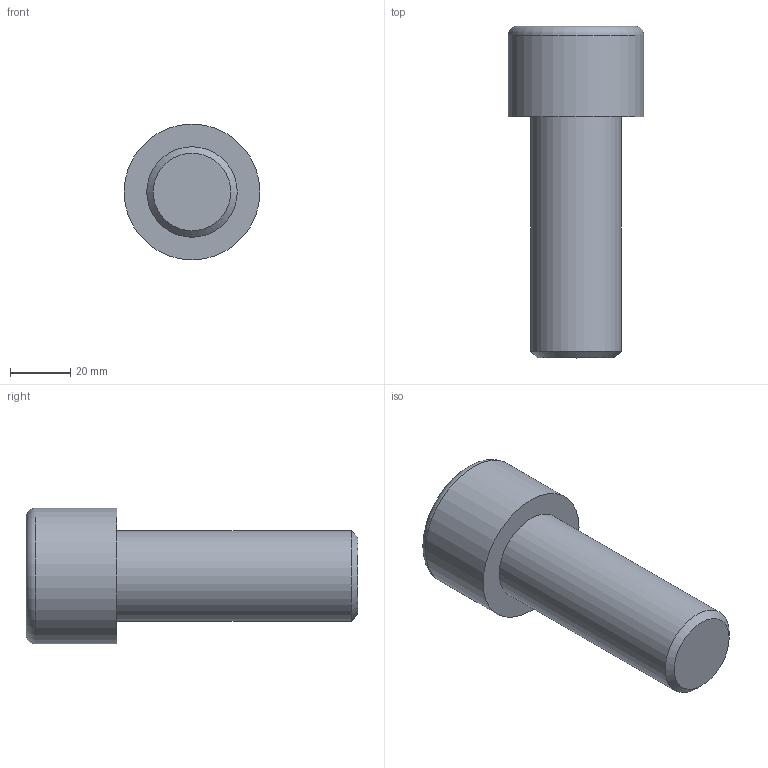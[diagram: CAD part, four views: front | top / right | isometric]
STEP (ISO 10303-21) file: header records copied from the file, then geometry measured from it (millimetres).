
FILE_DESCRIPTION(/* description */ (''),/* implementation_level */ '2;1');
FILE_NAME(/* name */ 'C:\Users\D\Documents\Inventor\各種小物\JIS\JIS B 1176 六角穴付きボルト\M30x80.stp',/* time_stamp */ '2022-05-09T19:01:57+09:00',/* author */ ('D'),/* organization */ (''),/* preprocessor_version */ 'ST-DEVELOPER v18',/* originating_system */ 'Autodesk Inventor 2020',/* authorisation */ '');
FILE_SCHEMA (('AUTOMOTIVE_DESIGN { 1 0 10303 214 3 1 1 }'));
Length unit declared in the file: millimetre
Products named in the file (1): M1.6x2.5
Bounding box: 45 x 110 x 45 mm (x, y, z)
Volume: 96087.4 mm3; surface area: 15946.4 mm2
Topology: 1 solids, 1 shells, 14 faces, 33 edges, 22 vertices
Faces by surface type: plane 9, cone 2, cylinder 2, torus 1
Full cylindrical faces by diameter (mm): 30 x1, 45 x1
Entity records: 435 total; most frequent: CARTESIAN_POINT 83, ORIENTED_EDGE 64, DIRECTION 64, EDGE_CURVE 32, AXIS2_PLACEMENT_3D 24, VERTEX_POINT 22, EDGE_LOOP 16, LINE 16
